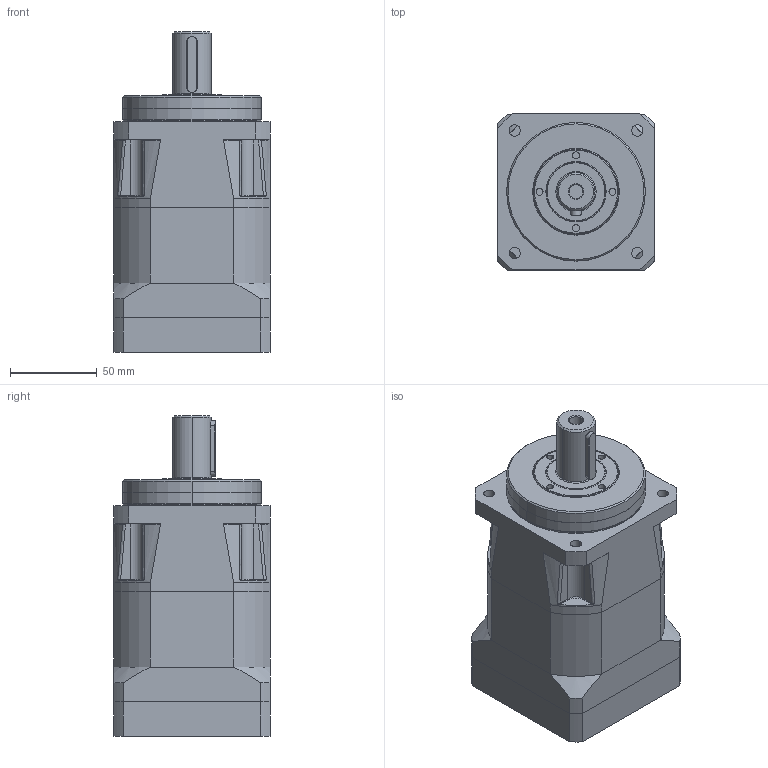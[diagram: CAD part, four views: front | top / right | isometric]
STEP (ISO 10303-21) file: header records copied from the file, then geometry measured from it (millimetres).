
FILE_DESCRIPTION((''),'2;1');
FILE_NAME('PS90-XXX-000-X2_ASM','2009-03-24T',('ata7311'),(''),'PRO/ENGINEER BY PARAMETRIC TECHNOLOGY CORPORATION, 2006300','PRO/ENGINEER BY PARAMETRIC TECHNOLOGY CORPORATION, 2006300','');
FILE_SCHEMA(('CONFIG_CONTROL_DESIGN'));
Products named in the file (15): 13325XXX; 13324000; HD202-0035; 10087124; 13320XXX_ASM; 13324001; 13329000; 13330XXX; 13120001; 12292000; M5X20; 13322XXX_ASM; 13134000; M5X25; PS90-XXX-000-X2_ASM
Assembly tree (18 placements, depth 3):
  PS90-XXX-000-X2_ASM
    13320XXX_ASM
      13325XXX
      13324000
      HD202-0035
      10087124
    13324001
    13322XXX_ASM
      13329000
      13330XXX
      13120001
      12292000  x2
      M5X20
    13134000
    M5X25  x4
Bounding box: 90 x 90 x 185 mm (x, y, z)
Volume: 611916.9 mm3; surface area: 166070.7 mm2
Topology: 16 solids, 16 shells, 536 faces, 1279 edges, 824 vertices
Faces by surface type: cylinder 237, plane 199, cone 52, torus 24, bspline 24
Entity records: 15918 total; most frequent: CARTESIAN_POINT 4406, DIRECTION 2489, ORIENTED_EDGE 2258, EDGE_CURVE 1129, AXIS2_PLACEMENT_3D 1010, VERTEX_POINT 726, EDGE_LOOP 551, CIRCLE 525
